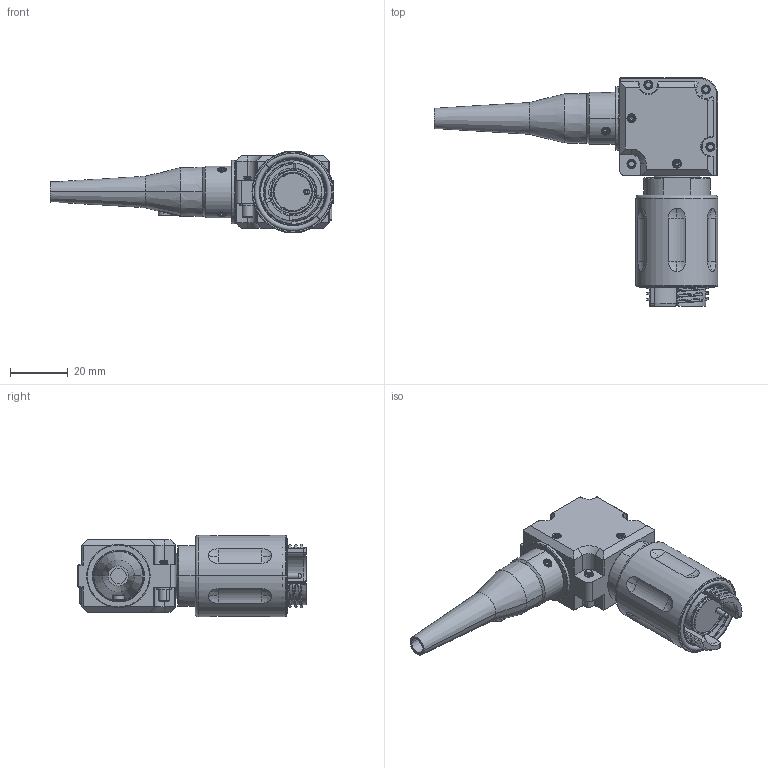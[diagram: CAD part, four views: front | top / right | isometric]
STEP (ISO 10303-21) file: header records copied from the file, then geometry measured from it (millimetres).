
FILE_DESCRIPTION (( 'STEP AP214' ), '1' );
FILE_NAME ('QMINI90-PXXX-XXXX-SXX.STEP', '2025-05-22T23:11:25', ( '' ), ( '' ), 'SwSTEP 2.0', 'SolidWorks 2024', '' );
FILE_SCHEMA (( 'AUTOMOTIVE_DESIGN' ));
Length unit declared in the file: inch
Products named in the file (1): QMINI90-PXXX-XXXX-SXX
Bounding box: 98.25 x 79.24 x 28.35 mm (x, y, z)
Volume: 51409.6 mm3; surface area: 20972.5 mm2
Topology: 13 solids, 20 shells, 1137 faces, 2834 edges, 1776 vertices
Faces by surface type: cylinder 352, plane 345, cone 269, bspline 116, torus 31, sphere 24
Entity records: 56586 total; most frequent: CARTESIAN_POINT 31669, ORIENTED_EDGE 5628, DIRECTION 4594, EDGE_CURVE 2814, VERTEX_POINT 1776, AXIS2_PLACEMENT_3D 1724, EDGE_LOOP 1214, VECTOR 1146
